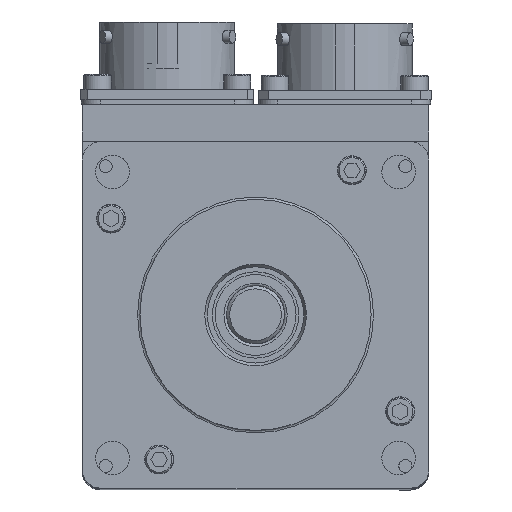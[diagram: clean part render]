
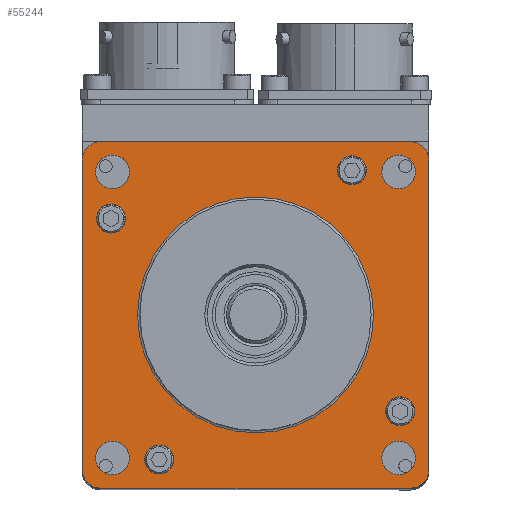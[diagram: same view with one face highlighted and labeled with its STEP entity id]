
A CAD part, top view. The second image highlights one B-rep face of the part: STEP entity #55244.
In plain terms, the highlighted planar face has unit normal (0, 0, 1).
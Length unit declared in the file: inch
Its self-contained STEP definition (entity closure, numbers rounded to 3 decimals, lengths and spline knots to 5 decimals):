
#54334=CARTESIAN_POINT('',(0.92808,0.81908,2.465));
#54335=VERTEX_POINT('',#54334);
#54336=CARTESIAN_POINT('',(0.92808,0.92808,2.465));
#54337=DIRECTION('',(0.0,0.0,-1.0));
#54338=DIRECTION('',(0.0,-1.0,0.0));
#54339=AXIS2_PLACEMENT_3D('',#54336,#54337,#54338);
#54340=CIRCLE('',#54339,0.109);
#54341=EDGE_CURVE('',#54335,#54335,#54340,.T.);
#54375=CARTESIAN_POINT('',(0.81908,-0.92808,2.465));
#54376=VERTEX_POINT('',#54375);
#54377=CARTESIAN_POINT('',(0.92808,-0.92808,2.465));
#54378=DIRECTION('',(0.0,0.0,-1.0));
#54379=DIRECTION('',(-1.0,0.0,0.0));
#54380=AXIS2_PLACEMENT_3D('',#54377,#54378,#54379);
#54381=CIRCLE('',#54380,0.109);
#54382=EDGE_CURVE('',#54376,#54376,#54381,.T.);
#54416=CARTESIAN_POINT('',(-0.92808,-0.81908,2.465));
#54417=VERTEX_POINT('',#54416);
#54418=CARTESIAN_POINT('',(-0.92808,-0.92808,2.465));
#54419=DIRECTION('',(0.0,0.0,-1.0));
#54420=DIRECTION('',(0.0,1.0,0.0));
#54421=AXIS2_PLACEMENT_3D('',#54418,#54419,#54420);
#54422=CIRCLE('',#54421,0.109);
#54423=EDGE_CURVE('',#54417,#54417,#54422,.T.);
#54457=CARTESIAN_POINT('',(-0.81908,0.92808,2.465));
#54458=VERTEX_POINT('',#54457);
#54459=CARTESIAN_POINT('',(-0.92808,0.92808,2.465));
#54460=DIRECTION('',(0.0,0.0,-1.0));
#54461=DIRECTION('',(1.0,0.0,0.0));
#54462=AXIS2_PLACEMENT_3D('',#54459,#54460,#54461);
#54463=CIRCLE('',#54462,0.109);
#54464=EDGE_CURVE('',#54458,#54458,#54463,.T.);
#54515=CARTESIAN_POINT('',(0.62507,0.84396,2.465));
#54516=VERTEX_POINT('',#54515);
#54517=CARTESIAN_POINT('',(0.62507,0.93796,2.465));
#54518=DIRECTION('',(0.0,0.0,-1.0));
#54519=DIRECTION('',(0.0,-1.0,0.0));
#54520=AXIS2_PLACEMENT_3D('',#54517,#54518,#54519);
#54521=CIRCLE('',#54520,0.094);
#54522=EDGE_CURVE('',#54516,#54516,#54521,.T.);
#54616=CARTESIAN_POINT('',(0.84396,-0.62507,2.465));
#54617=VERTEX_POINT('',#54616);
#54618=CARTESIAN_POINT('',(0.93796,-0.62507,2.465));
#54619=DIRECTION('',(0.0,0.0,-1.0));
#54620=DIRECTION('',(-1.0,0.0,0.0));
#54621=AXIS2_PLACEMENT_3D('',#54618,#54619,#54620);
#54622=CIRCLE('',#54621,0.094);
#54623=EDGE_CURVE('',#54617,#54617,#54622,.T.);
#54717=CARTESIAN_POINT('',(-0.62507,-0.84396,2.465));
#54718=VERTEX_POINT('',#54717);
#54719=CARTESIAN_POINT('',(-0.62507,-0.93796,2.465));
#54720=DIRECTION('',(0.0,0.0,-1.0));
#54721=DIRECTION('',(0.0,1.0,0.0));
#54722=AXIS2_PLACEMENT_3D('',#54719,#54720,#54721);
#54723=CIRCLE('',#54722,0.094);
#54724=EDGE_CURVE('',#54718,#54718,#54723,.T.);
#54818=CARTESIAN_POINT('',(-0.84396,0.62507,2.465));
#54819=VERTEX_POINT('',#54818);
#54820=CARTESIAN_POINT('',(-0.93796,0.62507,2.465));
#54821=DIRECTION('',(0.0,0.0,-1.0));
#54822=DIRECTION('',(1.0,0.0,0.0));
#54823=AXIS2_PLACEMENT_3D('',#54820,#54821,#54822);
#54824=CIRCLE('',#54823,0.094);
#54825=EDGE_CURVE('',#54819,#54819,#54824,.T.);
#55119=CARTESIAN_POINT('',(0.,0.765,2.465));
#55120=VERTEX_POINT('',#55119);
#55121=CARTESIAN_POINT('',(0.,0.,2.465));
#55122=DIRECTION('',(0.0,0.0,1.0));
#55123=DIRECTION('',(0.0,1.0,0.0));
#55124=AXIS2_PLACEMENT_3D('',#55121,#55122,#55123);
#55125=CIRCLE('',#55124,0.765);
#55126=EDGE_CURVE('',#55120,#55120,#55125,.T.);
#55142=CARTESIAN_POINT('',(0.,1.2575,2.465));
#55143=DIRECTION('',(0.0,0.0,-1.0));
#55144=DIRECTION('',(-1.0,0.0,0.0));
#55145=AXIS2_PLACEMENT_3D('',#55142,#55143,#55144);
#55146=PLANE('',#55145);
#55147=CARTESIAN_POINT('',(1.005,-1.1239,2.465));
#55148=VERTEX_POINT('',#55147);
#55149=CARTESIAN_POINT('',(-1.005,-1.1239,2.465));
#55150=VERTEX_POINT('',#55149);
#55151=CARTESIAN_POINT('',(1.005,-1.1239,2.465));
#55152=DIRECTION('',(-1.0,0.0,0.0));
#55153=VECTOR('',#55152,2.01);
#55154=LINE('',#55151,#55153);
#55155=EDGE_CURVE('',#55148,#55150,#55154,.T.);
#55156=ORIENTED_EDGE('',*,*,#55155,.F.);
#55157=CARTESIAN_POINT('',(1.1239,-1.005,2.465));
#55158=VERTEX_POINT('',#55157);
#55159=CARTESIAN_POINT('',(1.005,-1.005,2.465));
#55160=DIRECTION('',(0.0,0.0,-1.0));
#55161=DIRECTION('',(0.0,-1.0,0.0));
#55162=AXIS2_PLACEMENT_3D('',#55159,#55160,#55161);
#55163=CIRCLE('',#55162,0.1189);
#55164=EDGE_CURVE('',#55158,#55148,#55163,.T.);
#55165=ORIENTED_EDGE('',*,*,#55164,.F.);
#55166=CARTESIAN_POINT('',(1.1239,1.005,2.465));
#55167=VERTEX_POINT('',#55166);
#55168=CARTESIAN_POINT('',(1.1239,1.005,2.465));
#55169=DIRECTION('',(0.0,-1.0,0.0));
#55170=VECTOR('',#55169,2.01);
#55171=LINE('',#55168,#55170);
#55172=EDGE_CURVE('',#55167,#55158,#55171,.T.);
#55173=ORIENTED_EDGE('',*,*,#55172,.F.);
#55174=CARTESIAN_POINT('',(1.005,1.1239,2.465));
#55175=VERTEX_POINT('',#55174);
#55176=CARTESIAN_POINT('',(1.005,1.005,2.465));
#55177=DIRECTION('',(0.0,0.0,-1.0));
#55178=DIRECTION('',(1.0,0.0,0.0));
#55179=AXIS2_PLACEMENT_3D('',#55176,#55177,#55178);
#55180=CIRCLE('',#55179,0.1189);
#55181=EDGE_CURVE('',#55175,#55167,#55180,.T.);
#55182=ORIENTED_EDGE('',*,*,#55181,.F.);
#55183=CARTESIAN_POINT('',(-1.005,1.1239,2.465));
#55184=VERTEX_POINT('',#55183);
#55185=CARTESIAN_POINT('',(-1.005,1.1239,2.465));
#55186=DIRECTION('',(1.0,0.0,0.0));
#55187=VECTOR('',#55186,2.01);
#55188=LINE('',#55185,#55187);
#55189=EDGE_CURVE('',#55184,#55175,#55188,.T.);
#55190=ORIENTED_EDGE('',*,*,#55189,.F.);
#55191=CARTESIAN_POINT('',(-1.1239,1.005,2.465));
#55192=VERTEX_POINT('',#55191);
#55193=CARTESIAN_POINT('',(-1.005,1.005,2.465));
#55194=DIRECTION('',(0.0,0.0,-1.0));
#55195=DIRECTION('',(0.0,1.0,0.0));
#55196=AXIS2_PLACEMENT_3D('',#55193,#55194,#55195);
#55197=CIRCLE('',#55196,0.1189);
#55198=EDGE_CURVE('',#55192,#55184,#55197,.T.);
#55199=ORIENTED_EDGE('',*,*,#55198,.F.);
#55200=CARTESIAN_POINT('',(-1.1239,-1.005,2.465));
#55201=VERTEX_POINT('',#55200);
#55202=CARTESIAN_POINT('',(-1.1239,-1.005,2.465));
#55203=DIRECTION('',(0.0,1.0,0.0));
#55204=VECTOR('',#55203,2.01);
#55205=LINE('',#55202,#55204);
#55206=EDGE_CURVE('',#55201,#55192,#55205,.T.);
#55207=ORIENTED_EDGE('',*,*,#55206,.F.);
#55208=CARTESIAN_POINT('',(-1.005,-1.005,2.465));
#55209=DIRECTION('',(0.0,0.0,-1.0));
#55210=DIRECTION('',(-1.0,0.0,0.0));
#55211=AXIS2_PLACEMENT_3D('',#55208,#55209,#55210);
#55212=CIRCLE('',#55211,0.1189);
#55213=EDGE_CURVE('',#55150,#55201,#55212,.T.);
#55214=ORIENTED_EDGE('',*,*,#55213,.F.);
#55215=EDGE_LOOP('',(#55156,#55165,#55173,#55182,#55190,#55199,#55207,#55214));
#55216=FACE_OUTER_BOUND('',#55215,.T.);
#55217=ORIENTED_EDGE('',*,*,#54341,.T.);
#55218=EDGE_LOOP('',(#55217));
#55219=FACE_BOUND('',#55218,.T.);
#55220=ORIENTED_EDGE('',*,*,#54382,.T.);
#55221=EDGE_LOOP('',(#55220));
#55222=FACE_BOUND('',#55221,.T.);
#55223=ORIENTED_EDGE('',*,*,#54423,.T.);
#55224=EDGE_LOOP('',(#55223));
#55225=FACE_BOUND('',#55224,.T.);
#55226=ORIENTED_EDGE('',*,*,#54464,.T.);
#55227=EDGE_LOOP('',(#55226));
#55228=FACE_BOUND('',#55227,.T.);
#55229=ORIENTED_EDGE('',*,*,#54522,.T.);
#55230=EDGE_LOOP('',(#55229));
#55231=FACE_BOUND('',#55230,.T.);
#55232=ORIENTED_EDGE('',*,*,#54623,.T.);
#55233=EDGE_LOOP('',(#55232));
#55234=FACE_BOUND('',#55233,.T.);
#55235=ORIENTED_EDGE('',*,*,#54724,.T.);
#55236=EDGE_LOOP('',(#55235));
#55237=FACE_BOUND('',#55236,.T.);
#55238=ORIENTED_EDGE('',*,*,#54825,.T.);
#55239=EDGE_LOOP('',(#55238));
#55240=FACE_BOUND('',#55239,.T.);
#55241=ORIENTED_EDGE('',*,*,#55126,.F.);
#55242=EDGE_LOOP('',(#55241));
#55243=FACE_BOUND('',#55242,.T.);
#55244=ADVANCED_FACE('',(#55216,#55219,#55222,#55225,#55228,#55231,#55234,#55237,#55240,#55243),#55146,.F.);
